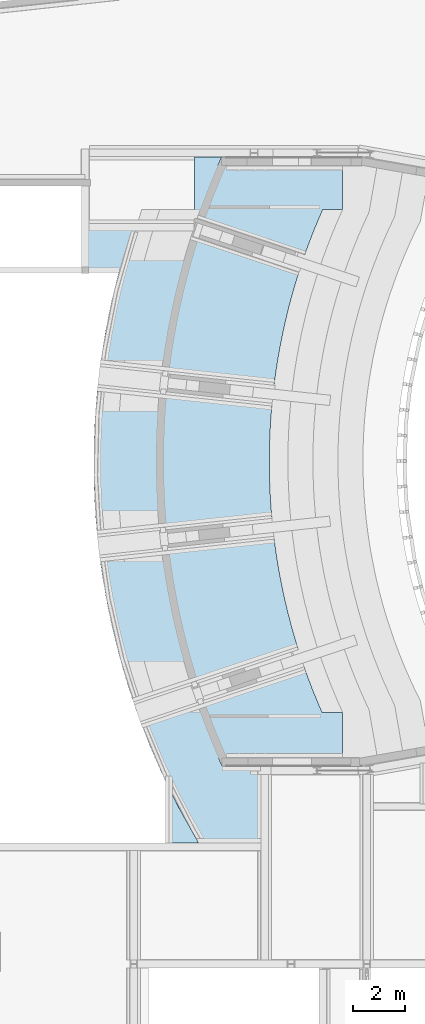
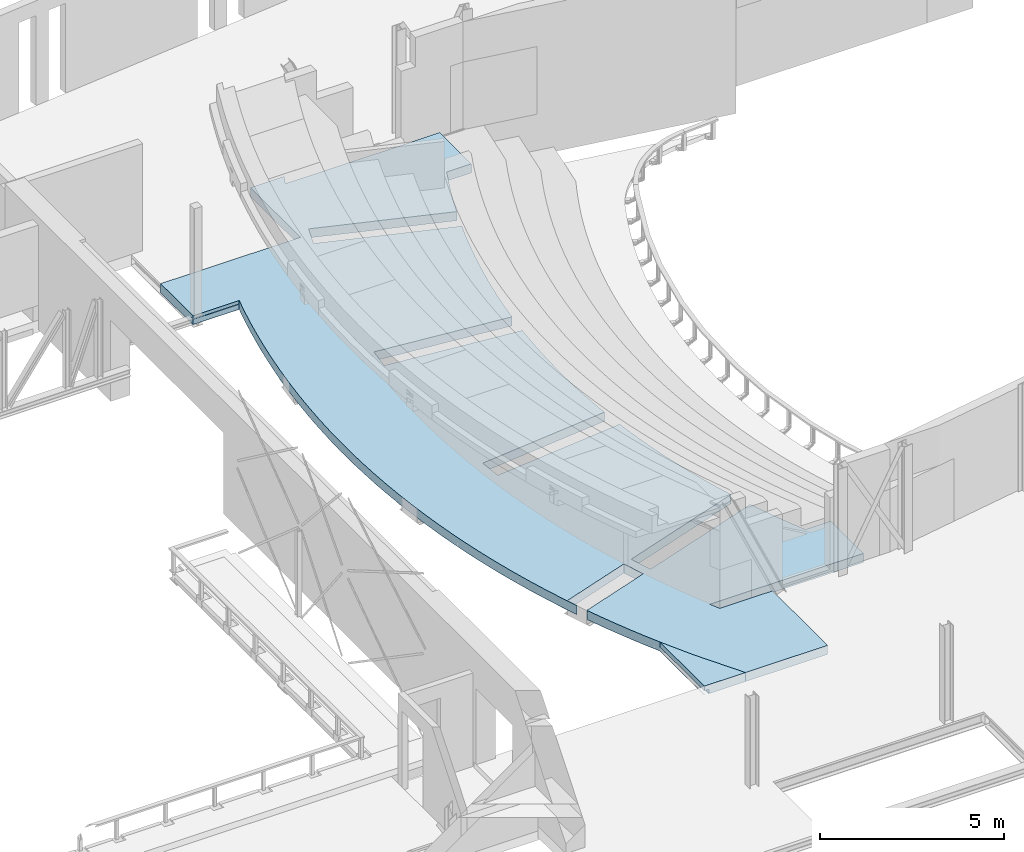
# One storey, part 61 of 68: 2 slabs.
"""IFC2X3 building model written with IfcOpenShell, lengths in millimetres."""

from ifc_helpers import new_model, entity, si_unit, converted_unit, derived_unit, direction, frame, origin, place, context, subcontext, project, spatial, faceted_brep, material, material_list, type_object, element, save


model = new_model("IFC2X3")

# Units and contexts
model_context = context("Model", 3, precision=0.01, world=origin(), true_north=direction((6.12303176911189e-17, 1.0)))
body_context = subcontext(model_context, "Body", "Model", "MODEL_VIEW")
ifc_project = project(units=[si_unit("LENGTHUNIT", "METRE", prefix="MILLI"), si_unit("AREAUNIT", "SQUARE_METRE", prefix="MILLI"), si_unit("VOLUMEUNIT", "CUBIC_METRE"), converted_unit("PLANEANGLEUNIT", "DEGREE", entity("IfcRatioMeasure", 0.0174532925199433), si_unit("PLANEANGLEUNIT", "RADIAN"), dimensions=[0, 0, 0, 0, 0, 0, 0]), si_unit("MASSUNIT", "GRAM", prefix="KILO"), derived_unit("MASSDENSITYUNIT", [(si_unit("MASSUNIT", "GRAM", prefix="KILO"), 1), (si_unit("LENGTHUNIT", "METRE"), -3)]), derived_unit("MOMENTOFINERTIAUNIT", [(si_unit("LENGTHUNIT", "METRE"), 4)]), si_unit("TIMEUNIT", "SECOND"), si_unit("FREQUENCYUNIT", "HERTZ"), si_unit("THERMODYNAMICTEMPERATUREUNIT", "DEGREE_CELSIUS"), derived_unit("THERMALTRANSMITTANCEUNIT", [(si_unit("MASSUNIT", "GRAM", prefix="KILO"), 1), (si_unit("THERMODYNAMICTEMPERATUREUNIT", "KELVIN"), -1), (si_unit("TIMEUNIT", "SECOND"), -3)]), derived_unit("VOLUMETRICFLOWRATEUNIT", [(si_unit("LENGTHUNIT", "METRE"), 3), (si_unit("TIMEUNIT", "SECOND"), -1)]), si_unit("ELECTRICCURRENTUNIT", "AMPERE"), si_unit("ELECTRICVOLTAGEUNIT", "VOLT"), si_unit("POWERUNIT", "WATT"), si_unit("FORCEUNIT", "NEWTON", prefix="KILO"), si_unit("ILLUMINANCEUNIT", "LUX"), si_unit("LUMINOUSFLUXUNIT", "LUMEN"), si_unit("LUMINOUSINTENSITYUNIT", "CANDELA"), derived_unit("USERDEFINED", [(si_unit("MASSUNIT", "GRAM", prefix="KILO"), -1), (si_unit("LENGTHUNIT", "METRE"), -2), (si_unit("TIMEUNIT", "SECOND"), 3), (si_unit("LUMINOUSFLUXUNIT", "LUMEN"), 1)]), derived_unit("LINEARVELOCITYUNIT", [(si_unit("LENGTHUNIT", "METRE"), 1), (si_unit("TIMEUNIT", "SECOND"), -1)]), si_unit("PRESSUREUNIT", "PASCAL"), derived_unit("USERDEFINED", [(si_unit("LENGTHUNIT", "METRE"), -2), (si_unit("MASSUNIT", "GRAM", prefix="KILO"), 1), (si_unit("TIMEUNIT", "SECOND"), -2)]), derived_unit("LINEARFORCEUNIT", [(si_unit("MASSUNIT", "GRAM", prefix="KILO"), 1), (si_unit("LENGTHUNIT", "METRE"), 1), (si_unit("TIMEUNIT", "SECOND"), -2), (si_unit("LENGTHUNIT", "METRE"), -1)]), derived_unit("PLANARFORCEUNIT", [(si_unit("MASSUNIT", "GRAM", prefix="KILO"), 1), (si_unit("LENGTHUNIT", "METRE"), 1), (si_unit("TIMEUNIT", "SECOND"), -2), (si_unit("LENGTHUNIT", "METRE"), -2)])], contexts=[model_context])

# Site, building, storey
site_placement = place(None, origin())
site = spatial("IfcSite", under=ifc_project, at=site_placement, Name="Theater aan de Parade", CompositionType="ELEMENT")
building_placement = place(site_placement, origin())
building = spatial("IfcBuilding", under=site, at=building_placement, Name="Theater aan de Parade", CompositionType="ELEMENT")
storey_placement = place(building_placement, frame((0.0, 0.0, 8750.0)))
storey = spatial("IfcBuildingStorey", under=building, at=storey_placement, Name="02 tweede verdieping", CompositionType="ELEMENT", Elevation=8750.0)

# Slabs
ifc_material_1 = material(Name="00_PBT_MAT_beton t.p.g._C30/37")
ifc_material_2 = material(Name="00_PBT_MAT_staal")
ifc_material_list = material_list([ifc_material_1, ifc_material_2])
slab_type_1 = type_object("IfcSlabType", Name="Floor:28_PBT_FL_staalplaatbeton_d=300_C30/37", PredefinedType="FLOOR")
slab_1_placement = place(storey_placement, origin())
element("IfcSlab", 1, at=slab_1_placement, inside=storey, type_object=slab_type_1, material=ifc_material_list, Name="Floor:28_PBT_FL_staalplaatbeton_d=300_C30/37", ObjectType="Floor:28_PBT_FL_staalplaatbeton_d=300_C30/37", PredefinedType="FLOOR", context=body_context, shape_type="Brep", body=[
    faceted_brep([(42267.6357533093, 24961.8989532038, -80.0), (42267.6357533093, 24961.8989532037, -380.0), (42428.0964396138, 24385.5568164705, -380.0), (42428.0964396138, 24385.5568164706, -80.0), (42119.2250568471, 25541.4609963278, -80.0), (42119.2250568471, 25541.4609963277, -380.0), (42784.8835946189, 23243.5327879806, -380.0), (42981.05498425, 22678.3472798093, -380.0), (42981.0549842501, 22678.347279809, -80.0), (42784.8835946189, 23243.5327879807, -80.0), (42600.5373707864, 23812.6850946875, -380.0), (42600.5373707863, 23812.6850946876, -80.0), (41982.9288576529, 26123.9910377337, -380.0), (41982.9288576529, 26123.9910377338, -80.0), (41485.0531119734, 29072.2603080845, -380.0), (41559.9943618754, 28478.7101866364, -380.0), (41559.9943618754, 28478.7101866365, -80.0), (41485.0531119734, 29072.2603080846, -80.0), (41422.5020060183, 29667.2437567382, -380.0), (41422.5020060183, 29667.2437567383, -80.0), (41372.3682324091, 30263.4019214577, -380.0), (41372.3682324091, 30263.4019214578, -80.0), (41746.9116270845, 27296.9411427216, -380.0), (41858.806397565, 26709.2358792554, -380.0), (41858.806397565, 26709.2358792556, -80.0), (41746.9116270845, 27296.9411427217, -80.0), (41647.2931819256, 27886.8513805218, -80.0), (41647.2931819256, 27886.8513805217, -380.0), (41334.6735823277, 30860.4756804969, -380.0), (41334.6735823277, 30860.475680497, -80.0), (41309.4344402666, 31458.2055141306, -80.0), (41309.4344402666, 31458.2055141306, -380.0), (41308.5326737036, 33252.7326652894, -80.0), (41333.1710750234, 33850.4875907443, -80.0), (41333.1710750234, 33850.4875907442, -380.0), (41308.5326737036, 33252.7326652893, -380.0), (41370.2656396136, 34447.5989738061, -80.0), (41370.2656396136, 34447.5989738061, -380.0), (41419.8002446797, 35043.8072783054, -80.0), (41419.8002446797, 35043.8072783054, -380.0), (41296.661776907, 32056.331617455, -80.0), (41296.661776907, 32056.3316174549, -380.0), (41296.3611443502, 32654.594013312, -80.0), (41296.3611443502, 32654.594013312, -380.0), (41481.7533603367, 35638.8533605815, -380.0), (41481.7533603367, 35638.8533605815, -80.0), (41976.6659310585, 38587.6220581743, -80.0), (41976.6659310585, 38587.6220581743, -380.0), (41853.1316726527, 38002.2526331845, -380.0), (41853.1316726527, 38002.2526331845, -80.0), (42112.3766587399, 39170.2889270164, -80.0), (42112.3766587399, 39170.2889270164, -380.0), (42260.2048722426, 39750.0, -190.0), (42260.2048722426, 39750.0, -200.0), (42260.2048722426, 39750.0, -370.0), (42260.2048722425, 39750.0, -380.0), (42260.2048722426, 39750.0, -80.0), (41642.8020269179, 36824.4249219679, -380.0), (41556.0980589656, 36232.4785821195, -380.0), (41556.0980589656, 36232.4785821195, -80.0), (41642.8020269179, 36824.4249219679, -80.0), (41741.82757856, 37414.4350888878, -80.0), (41741.82757856, 37414.4350888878, -380.0), (45399.9485248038, 23698.5992345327, -380.0), (45352.3526698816, 23840.8477304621, -380.0), (45352.3526698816, 23840.8477304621, -80.0), (45399.9485248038, 23698.5992345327, -80.0), (45574.4666595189, 23177.0214161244, -380.0), (45526.8708045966, 23319.269912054, -380.0), (45526.8708045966, 23319.269912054, -80.0), (45574.4666595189, 23177.0214161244, -80.0), (40813.8581275, 39750.0, -190.0), (40813.8581275, 39750.0, -80.0), (40813.8581275, 39750.0, -370.0), (40813.8581275, 39750.0, -200.0), (40813.8581275, 39858.5220723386, -364.727922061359), (40813.8581275, 39855.6615371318, -361.0), (40813.8581275, 39853.8633295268, -356.658742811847), (40813.8581275, 39853.2499944, -352.0), (40813.8581275, 39853.2499944, -218.0), (40813.8581275, 39853.8633295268, -213.341257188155), (40813.8581275, 39855.6615371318, -209.0), (40813.8581275, 39858.5220723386, -205.27207793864), (40813.8581275, 39862.2499944, -202.411542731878), (40813.8581275, 39866.5912515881, -200.613335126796), (40813.8581275, 39871.2499944, -200.0), (40813.8581275, 39950.0, -200.0), (40813.8581275, 39950.0, -190.0), (40813.8581275, 41510.0, -80.0), (40813.8581275, 41510.0, -160.0), (40813.8581275, 41510.0, -380.0), (40813.8581275, 39950.0, -380.0), (40813.8581275, 39950.0, -370.0), (40813.8581275, 39871.2499944, -370.0), (40813.8581275, 39866.5912515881, -369.386664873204), (40813.8581275, 39862.2499944, -367.588457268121), (40813.8581275, 39837.7499944, -367.588457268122), (40813.8581275, 39833.4087372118, -369.386664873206), (40813.8581275, 39828.7499944, -370.0), (40813.8581275, 39828.7499944, -200.0), (40813.8581275, 39833.4087372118, -200.613335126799), (40813.8581275, 39837.7499944, -202.411542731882), (40813.8581275, 39841.4779164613, -205.272077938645), (40813.8581275, 39844.3384516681, -209.0), (40813.8581275, 39846.1366592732, -213.341257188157), (40813.8581275, 39846.7499944, -218.0), (40813.8581275, 39846.7499944, -352.0), (40813.8581275, 39846.1366592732, -356.658742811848), (40813.8581275, 39844.3384516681, -361.0), (40813.8581275, 39841.4779164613, -364.72792206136), (41113.8581275, 41510.0, -380.0), (41113.8581275, 41504.4999944, -380.0), (45185.0, 41504.4999944, -380.0), (45185.0, 41510.0, -380.0), (45194.5631615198, 41510.0, -380.0), (45194.5631615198, 44210.0, -380.0), (45194.5631615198, 44225.0, -380.0), (46251.3115478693, 44225.0, -380.0), (46247.9175528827, 44217.5004467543, -380.0), (46244.5256883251, 44209.9998426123, -380.0), (46177.32488229, 44060.1920183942, -380.0), (46110.9866342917, 43910.0, -380.0), (50944.0177331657, 43910.0, -380.0), (50944.0177331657, 42200.0, -380.0), (50172.7408250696, 42200.0, -380.0), (49985.2403862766, 41765.6548449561, -380.0), (49806.2918839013, 41327.7169934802, -380.0), (49635.9641135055, 40886.3548078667, -380.0), (49474.3225564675, 40441.7379668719, -380.0), (45581.182225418, 41744.3692613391, -380.0), (45359.0682357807, 41080.5429470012, -380.0), (49251.2129681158, 39778.2447764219, -380.0), (49103.4704492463, 39299.7921470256, -380.0), (48965.6887554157, 38818.3765518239, -380.0), (48837.9272299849, 38334.2053392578, -380.0), (48720.2409005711, 37847.4870446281, -380.0), (48612.6804553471, 37358.4313002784, -380.0), (48515.2922212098, 36867.2487453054, -380.0), (48428.1181438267, 36374.1509348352, -380.0), (48351.1957695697, 35879.3502489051, -380.0), (48284.558229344, 35383.0598009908, -380.0), (44210.9732879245, 35820.7844911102, -380.0), (44194.9473811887, 35671.6430471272, -380.0), (44152.2116298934, 35273.9325298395, -380.0), (44136.1857231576, 35124.7910858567, -380.0), (48208.6946519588, 34687.1820180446, -380.0), (48167.1416924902, 34192.4551050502, -380.0), (48135.7766196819, 33696.9779621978, -380.0), (48114.6127129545, 33200.9603658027, -380.0), (48103.6589327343, 32704.612320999, -380.0), (48102.9199166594, 32208.1439728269, -380.0), (48112.395977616, 31711.7655172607, -380.0), (48132.0831036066, 31215.6871122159, -380.0), (48161.972959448, 30720.1187885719, -380.0), (48202.0528903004, 30225.2703612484, -380.0), (44134.6612389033, 29788.2111674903, -380.0), (44150.6871456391, 29639.0697235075, -380.0), (44193.4228969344, 29241.3592062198, -380.0), (44209.4488036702, 29092.217762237, -380.0), (48275.8444292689, 29529.1699286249, -380.0), (48340.9010353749, 29033.4106536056, -380.0), (48416.216742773, 28539.105924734, -380.0), (48501.7592076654, 28046.4680176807, -380.0), (48597.4916944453, 27555.7084923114, -380.0), (48703.3730914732, 27067.0381018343, -380.0), (48819.3579287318, 26580.6667022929, -380.0), (48945.396397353, 26096.8031624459, -380.0), (49081.4343710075, 25615.6552740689, -380.0), (49227.4134291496, 25137.4296627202, -380.0), (45399.7283147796, 23698.52555302, -380.0), (45462.3588237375, 23508.5835916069, -380.0), (45526.3324854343, 23319.0897923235, -380.0), (49448.3648409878, 24473.2143538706, -380.0), (49609.7658641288, 24024.824794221, -380.0), (49779.9910590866, 23579.7103477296, -380.0), (49958.9740215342, 23138.0446521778, -380.0), (50146.6449307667, 22700.0, -380.0), (50944.0177331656, 22700.0, -380.0), (50944.0177331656, 20930.0, -380.0), (46137.3642218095, 20930.0, -380.0), (46204.1160894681, 20779.8066151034, -380.0), (46271.7314928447, 20630.0, -380.0), (47928.1615208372, 20630.0, -380.0), (47928.1615208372, 17650.244375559, -380.0), (45357.7967926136, 17650.244375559, -380.0), (45094.1176584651, 18100.7635284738, -380.0), (44838.6782106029, 18556.0027752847, -380.0), (44591.562088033, 19015.8129258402, -380.0), (44352.851178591, 19480.0415579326, -380.0), (44122.6244010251, 19948.5351296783, -380.0), (43900.9578504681, 20421.1387407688, -380.0), (43687.9248014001, 20897.6961315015, -380.0), (43483.5956811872, 21378.0497386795, -380.0), (43288.0380469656, 21862.0407473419, -380.0), (43101.3149724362, 22349.513412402, -380.0), (45288.9189156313, 23081.478128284, -380.0), (45066.804925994, 23745.3044426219, -380.0), (42869.9979894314, 23010.2604369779, -380.0), (42287.0116824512, 39750.0, -380.0), (42287.0116824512, 39950.0, -380.0), (50944.0177331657, 43910.0, -80.0), (46110.9866342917, 43910.0, -80.0), (46177.32488229, 44060.1920183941, -80.0), (46244.525688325, 44209.9998426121, -80.0), (46247.9175528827, 44217.5004467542, -80.0), (46251.3115478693, 44225.0, -80.0), (45194.5631615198, 44225.0, -80.0), (45194.5631615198, 41510.0, -80.0), (42869.9979894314, 23010.2604369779, -80.0), (45066.804925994, 23745.3044426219, -80.0), (45288.9189156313, 23081.478128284, -80.0), (43101.3149724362, 22349.513412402, -80.0), (43288.0380469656, 21862.0407473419, -80.0), (43483.5956811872, 21378.0497386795, -80.0), (43687.9248014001, 20897.6961315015, -80.0), (43900.9578504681, 20421.1387407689, -80.0), (44122.6244010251, 19948.5351296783, -80.0), (44352.851178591, 19480.0415579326, -80.0), (44591.562088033, 19015.8129258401, -80.0), (44838.6782106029, 18556.0027752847, -80.0), (45094.1176584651, 18100.7635284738, -80.0), (45357.7967926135, 17650.2443755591, -80.0), (47928.1615208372, 17650.244375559, -80.0), (47928.1615208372, 20630.0, -80.0), (46271.7314928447, 20630.0, -80.0), (46204.1160894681, 20779.8066151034, -80.0), (46137.3642218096, 20930.0, -80.0), (50944.0177331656, 20930.0, -80.0), (50944.0177331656, 22700.0, -80.0), (50146.6449307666, 22700.0, -80.0), (49958.9740215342, 23138.0446521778, -80.0), (49779.9910590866, 23579.7103477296, -80.0), (49609.7658641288, 24024.824794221, -80.0), (49448.3648409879, 24473.2143538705, -80.0), (46711.4730878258, 23557.4598359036, -80.0), (45526.3324854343, 23319.0897923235, -80.0), (45462.3588237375, 23508.5835916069, -80.0), (45399.7283147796, 23698.52555302, -80.0), (45352.7900797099, 23840.9940862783, -80.0), (46489.3590981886, 24221.2861502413, -80.0), (49227.4134291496, 25137.4296627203, -80.0), (49081.4343710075, 25615.6552740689, -80.0), (48945.396397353, 26096.8031624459, -80.0), (48819.3579287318, 26580.6667022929, -80.0), (48703.3730914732, 27067.0381018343, -80.0), (48597.4916944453, 27555.7084923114, -80.0), (48501.7592076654, 28046.4680176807, -80.0), (48416.216742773, 28539.105924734, -80.0), (48340.9010353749, 29033.4106536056, -80.0), (48275.844429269, 29529.1699286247, -80.0), (45407.9541995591, 29221.0024593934, -80.0), (44209.4488036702, 29092.217762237, -80.0), (44193.4228969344, 29241.3592062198, -80.0), (44150.6871456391, 29639.0697235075, -80.0), (44134.6612389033, 29788.2111674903, -80.0), (44134.8226922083, 29788.2285163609, -80.0), (45333.1666347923, 29916.9958646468, -80.0), (48202.0528903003, 30225.2703612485, -80.0), (48161.972959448, 30720.1187885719, -80.0), (48132.0831036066, 31215.6871122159, -80.0), (48112.395977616, 31711.7655172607, -80.0), (48102.9199166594, 32208.1439728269, -80.0), (48103.6589327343, 32704.612320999, -80.0), (48114.6127129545, 33200.9603658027, -80.0), (48135.7766196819, 33696.9779621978, -80.0), (48167.1416924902, 34192.4551050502, -80.0), (48208.6946519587, 34687.1820180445, -80.0), (45343.0634666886, 34995.1067429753, -80.0), (44136.1857231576, 35124.7910858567, -80.0), (44152.2116298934, 35273.9325298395, -80.0), (44194.9473811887, 35671.6430471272, -80.0), (44210.9732879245, 35820.7844911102, -80.0), (45417.8510314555, 35691.1001482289, -80.0), (48284.5582293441, 35383.059800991, -80.0), (48351.1957695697, 35879.3502489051, -80.0), (48428.1181438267, 36374.1509348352, -80.0), (48515.2922212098, 36867.2487453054, -80.0), (48612.6804553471, 37358.4313002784, -80.0), (48720.2409005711, 37847.4870446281, -80.0), (48837.9272299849, 38334.2053392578, -80.0), (48965.6887554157, 38818.3765518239, -80.0), (49103.4704492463, 39299.7921470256, -80.0), (49251.2129681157, 39778.2447764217, -80.0), (45359.0682357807, 41080.5429470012, -80.0), (45581.182225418, 41744.3692613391, -80.0), (49474.3225564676, 40441.7379668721, -80.0), (49635.9641135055, 40886.3548078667, -80.0), (49806.2918839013, 41327.7169934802, -80.0), (49985.2403862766, 41765.6548449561, -80.0), (50172.7408250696, 42200.0, -80.0), (50944.0177331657, 42200.0, -80.0), (45194.5631615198, 44225.0, -140.0), (45194.5631615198, 41510.0, -140.0), (45185.0, 41510.0, -165.0), (41113.8581275, 41510.0, -165.0), (45185.0, 41504.4999944, -211.0), (41113.8581275, 41504.4999944, -211.0), (45185.0, 41503.5799917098, -204.011885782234), (41113.8581275, 41503.5799917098, -204.011885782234), (41113.8581275, 41500.8826803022, -197.500000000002), (45185.0, 41500.8826803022, -197.500000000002), (41113.8581275, 41496.591877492, -191.908116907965), (45185.0, 41496.591877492, -191.908116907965), (45185.0, 41491.0, -187.617314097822), (41113.8581275, 41491.0, -187.617314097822), (41113.8581275, 41484.4881086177, -184.920002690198), (45185.0, 41484.4881086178, -184.920002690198), (41113.8581275, 41477.4999944, -184.0), (45185.0, 41477.4999944, -184.0), (45185.0, 41360.0, -184.0), (41113.8581275, 41360.0, -184.0), (41113.8581275, 41360.0, -165.0), (45185.0, 41360.0, -165.0), (42287.0116824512, 39862.2499944, -202.411542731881), (42287.0116824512, 39866.5912515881, -200.613335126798), (42287.0116824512, 39871.2499944, -200.0), (42287.0116824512, 39858.5220723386, -205.272077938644), (42287.0116824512, 39853.2499944, -218.0), (42287.0116824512, 39853.8633295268, -213.341257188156), (42287.0116824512, 39855.6615371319, -209.0), (42287.0116824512, 39853.2499944, -352.0), (42287.0116824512, 39855.6615371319, -361.0), (42287.0116824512, 39853.8633295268, -356.658742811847), (42287.0116824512, 39858.5220723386, -364.727922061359), (42287.0116824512, 39871.2499944, -370.0), (42287.0116824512, 39866.5912515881, -369.386664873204), (42287.0116824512, 39862.2499944, -367.588457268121), (42287.0116824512, 39950.0, -370.0), (42287.0116824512, 39828.7499944, -370.0), (42287.0116824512, 39750.0, -370.0), (42287.0116824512, 39950.0, -200.0), (42287.0116824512, 39950.0, -190.0), (42287.0116824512, 39750.0, -200.0), (42287.0116824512, 39750.0, -190.0), (42287.0116824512, 39837.7499944, -367.588457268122), (42287.0116824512, 39833.4087372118, -369.386664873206), (42287.0116824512, 39841.4779164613, -364.72792206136), (42287.0116824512, 39846.7499944, -352.0), (42287.0116824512, 39846.1366592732, -356.658742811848), (42287.0116824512, 39844.3384516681, -361.0), (42287.0116824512, 39846.7499944, -218.0), (42287.0116824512, 39844.3384516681, -209.0), (42287.0116824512, 39846.1366592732, -213.341257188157), (42287.0116824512, 39841.4779164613, -205.272077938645), (42287.0116824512, 39828.7499944, -200.0), (42287.0116824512, 39833.4087372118, -200.613335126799), (42287.0116824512, 39837.7499944, -202.411542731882)], [[[0, 1, 2, 3]], [[4, 5, 1, 0]], [[6, 7, 8, 9]], [[10, 6, 9, 11]], [[3, 2, 10, 11]], [[12, 5, 4, 13]], [[14, 15, 16, 17]], [[18, 14, 17, 19]], [[20, 18, 19, 21]], [[22, 23, 24, 25]], [[25, 26, 27, 22]], [[15, 27, 26, 16]], [[13, 24, 23, 12]], [[28, 20, 21, 29]], [[29, 30, 31, 28]], [[32, 33, 34, 35]], [[33, 36, 37, 34]], [[36, 38, 39, 37]], [[40, 41, 31, 30]], [[42, 43, 41, 40]], [[42, 32, 35, 43]], [[44, 39, 38, 45]], [[46, 47, 48, 49]], [[50, 51, 47, 46]], [[52, 53, 54, 55, 51, 50, 56]], [[57, 58, 59, 60]], [[60, 61, 62, 57]], [[49, 48, 62, 61]], [[45, 59, 58, 44]], [[63, 64, 65, 66]], [[67, 68, 69, 70]], [[71, 52, 56, 72]], [[73, 54, 53, 74]], [[75, 76, 77, 78, 79, 80, 81, 82, 83, 84, 85, 86, 87, 71, 72, 88, 89, 90, 91, 92, 93, 94, 95]], [[96, 97, 98, 73, 74, 99, 100, 101, 102, 103, 104, 105, 106, 107, 108, 109]], [[91, 90, 110, 111, 112, 113, 114, 115, 116, 117, 118, 119, 120, 121, 122, 123, 124, 125, 126, 127, 128, 129, 130, 131, 132, 133, 134, 135, 136, 137, 138, 139, 140, 141, 142, 143, 144, 145, 146, 147, 148, 149, 150, 151, 152, 153, 154, 155, 156, 157, 158, 159, 160, 161, 162, 163, 164, 165, 166, 167, 168, 64, 63, 169, 170, 171, 68, 67, 172, 173, 174, 175, 176, 177, 178, 179, 180, 181, 182, 183, 184, 185, 186, 187, 188, 189, 190, 191, 192, 193, 194, 195, 196, 197, 7, 6, 10, 2, 1, 5, 12, 23, 22, 27, 15, 14, 18, 20, 28, 31, 41, 43, 35, 34, 37, 39, 44, 58, 57, 62, 48, 47, 51, 55, 198, 199]], [[200, 201, 202, 203, 204, 205, 206, 207, 88, 72, 56, 50, 46, 49, 61, 60, 59, 45, 38, 36, 33, 32, 42, 40, 30, 29, 21, 19, 17, 16, 26, 25, 24, 13, 4, 0, 3, 11, 9, 8, 208, 209, 210, 211, 212, 213, 214, 215, 216, 217, 218, 219, 220, 221, 222, 223, 224, 225, 226, 227, 228, 229, 230, 231, 232, 233, 234, 70, 69, 235, 236, 237, 66, 65, 238, 239, 240, 241, 242, 243, 244, 245, 246, 247, 248, 249, 250, 251, 252, 253, 254, 255, 256, 257, 258, 259, 260, 261, 262, 263, 264, 265, 266, 267, 268, 269, 270, 271, 272, 273, 274, 275, 276, 277, 278, 279, 280, 281, 282, 283, 284, 285, 286, 287, 288, 289, 290]], [[182, 181, 224, 223]], [[185, 184, 221, 220]], [[187, 186, 219, 218]], [[220, 219, 186, 185]], [[188, 187, 218, 217]], [[217, 216, 189, 188]], [[191, 190, 215, 214]], [[193, 192, 213, 212]], [[214, 213, 192, 191]], [[194, 193, 212, 211]], [[215, 190, 189, 216]], [[205, 204, 118, 117]], [[119, 118, 204, 203]], [[202, 201, 121, 120]], [[203, 202, 120, 119]], [[122, 121, 201, 200]], [[123, 122, 200, 290]], [[178, 177, 228, 227]], [[124, 123, 290, 289]], [[288, 287, 126, 125]], [[124, 289, 288, 125]], [[286, 285, 128, 127]], [[287, 286, 127, 126]], [[129, 128, 285, 284]], [[131, 130, 283, 282]], [[132, 131, 282, 281]], [[134, 133, 280, 279]], [[281, 280, 133, 132]], [[135, 134, 279, 278]], [[278, 277, 136, 135]], [[137, 136, 277, 276]], [[139, 138, 275, 274]], [[276, 275, 138, 137]], [[140, 139, 274, 273]], [[141, 140, 273, 272, 271]], [[145, 144, 268, 267, 266]], [[146, 145, 266, 265]], [[148, 147, 264, 263]], [[265, 264, 147, 146]], [[149, 148, 263, 262]], [[262, 261, 150, 149]], [[151, 150, 261, 260]], [[153, 152, 259, 258]], [[260, 259, 152, 151]], [[154, 153, 258, 257]], [[155, 154, 257, 256, 255, 254]], [[159, 158, 251, 250, 249]], [[160, 159, 249, 248]], [[162, 161, 247, 246]], [[248, 247, 161, 160]], [[163, 162, 246, 245]], [[245, 244, 164, 163]], [[165, 164, 244, 243]], [[167, 166, 242, 241]], [[243, 242, 166, 165]], [[168, 167, 241, 240]], [[64, 168, 240, 239, 238, 65]], [[197, 196, 209, 208]], [[172, 67, 70, 234, 233]], [[211, 210, 195, 194]], [[232, 231, 174, 173]], [[172, 233, 232, 173]], [[230, 229, 176, 175]], [[231, 230, 175, 174]], [[177, 176, 229, 228]], [[179, 178, 227, 226]], [[226, 225, 180, 179]], [[224, 181, 180, 225]], [[130, 129, 284, 283]], [[142, 141, 271, 270, 269, 268, 144, 143]], [[156, 155, 254, 253, 252, 251, 158, 157]], [[117, 116, 291, 206, 205]], [[183, 182, 223, 222]], [[184, 183, 222, 221]], [[110, 90, 89, 88, 207, 292, 114, 113, 293, 294]], [[115, 114, 292, 207, 206, 291, 116]], [[68, 171, 235, 69]], [[237, 169, 63, 66]], [[170, 236, 235, 171]], [[169, 237, 236, 170]], [[196, 195, 210, 209]], [[8, 7, 197, 208]], [[295, 112, 111, 296]], [[297, 298, 299, 300]], [[300, 299, 301, 302]], [[296, 298, 297, 295]], [[303, 304, 305, 306]], [[306, 305, 307, 308]], [[302, 301, 304, 303]], [[309, 308, 307, 310]], [[309, 310, 311, 312]], [[293, 312, 311, 294]], [[110, 294, 311, 310, 307, 305, 304, 301, 299, 298, 296, 111]], [[112, 295, 297, 300, 302, 303, 306, 308, 309, 312, 293, 113]], [[84, 83, 313, 314]], [[85, 84, 314, 315]], [[313, 83, 82, 316]], [[80, 79, 317, 318]], [[81, 80, 318, 319]], [[316, 82, 81, 319]], [[320, 317, 79, 78]], [[77, 76, 321, 322]], [[78, 77, 322, 320]], [[321, 76, 75, 323]], [[94, 93, 324, 325]], [[95, 94, 325, 326]], [[323, 75, 95, 326]], [[327, 324, 93, 92]], [[54, 73, 98, 328, 329]], [[327, 92, 91, 199]], [[330, 331, 87, 86]], [[329, 198, 55, 54]], [[332, 53, 52, 333]], [[97, 96, 334, 335]], [[98, 97, 335, 328]], [[334, 96, 109, 336]], [[107, 106, 337, 338]], [[108, 107, 338, 339]], [[336, 109, 108, 339]], [[340, 337, 106, 105]], [[104, 103, 341, 342]], [[105, 104, 342, 340]], [[341, 103, 102, 343]], [[100, 99, 344, 345]], [[101, 100, 345, 346]], [[343, 102, 101, 346]], [[53, 332, 344, 99, 74]], [[315, 330, 86, 85]], [[52, 71, 87, 331, 333]], [[324, 327, 199, 198, 329, 328, 335, 334, 336, 339, 338, 337, 340, 342, 341, 343, 346, 345, 344, 332, 333, 331, 330, 315, 314, 313, 316, 319, 318, 317, 320, 322, 321, 323, 326, 325]]]),
])
slab_type_2 = type_object("IfcSlabType", Name="Floor:28_PBT_FL_beton t.p.g._d=300_rand staalplaat-betonvloer_C30/37", PredefinedType="FLOOR")
slab_2_placement = place(storey_placement, origin())
element("IfcSlab", 2, at=slab_2_placement, inside=storey, type_object=slab_type_2, material=ifc_material_1, Name="Floor:28_PBT_FL_beton t.p.g._d=300_rand staalplaat-betonvloer_C30/37", ObjectType="Floor:28_PBT_FL_beton t.p.g._d=300_rand staalplaat-betonvloer_C30/37", PredefinedType="FLOOR", context=body_context, shape_type="Brep", body=[
    faceted_brep([(44068.8581300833, 17650.244375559, -380.0), (44068.4604191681, 17650.244375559, -380.0), (44068.4604191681, 20061.9712002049, -380.0), (44075.9561774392, 20046.1963281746, -380.0), (44078.4959172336, 20040.8598097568, -380.0), (44083.4604191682, 20030.4283647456, -380.0), (44083.4604191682, 17650.244375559, -380.0), (44068.4604191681, 17650.244375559, -365.0), (44068.4604191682, 20061.971200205, -365.0), (44070.4746980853, 20057.7323861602, -368.324119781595), (44072.4889770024, 20053.4935721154, -371.648239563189), (44074.5032559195, 20049.2547580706, -374.972359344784), (44076.5175348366, 20045.0159440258, -378.296479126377), (44078.6126243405, 20040.6139861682, -378.81053474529), (44079.9889770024, 20037.7221543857, -379.148239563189), (44080.8087687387, 17650.244375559, -378.901650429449), (44078.1571183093, 17650.244375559, -377.803300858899), (44075.5054678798, 17650.244375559, -376.704951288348), (44072.8538174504, 17650.244375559, -375.606601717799), (44071.7554678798, 17650.244375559, -372.954951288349), (44070.6571183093, 17650.244375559, -370.303300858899), (44069.5587687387, 17650.244375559, -367.651650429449)], [[[0, 1, 2, 3, 4, 5, 6]], [[2, 1, 7, 8]], [[2, 8, 9, 10, 11, 12]], [[12, 13, 14, 5, 4, 3]], [[2, 12, 3]], [[1, 0, 6, 15, 16, 17, 18, 19, 20, 21, 7]], [[14, 16, 15]], [[17, 11, 18]], [[15, 6, 5]], [[7, 21, 8]], [[21, 9, 8]], [[14, 15, 5]], [[16, 14, 13, 12]], [[11, 17, 12]], [[10, 9, 20]], [[17, 16, 12]], [[21, 20, 9]], [[10, 19, 11]], [[18, 11, 19]], [[10, 20, 19]]]),
    faceted_brep([(45357.7967926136, 17650.244375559, -380.0), (45357.7967926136, 17650.244375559, -80.0), (44068.4604191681, 17650.244375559, -80.0), (44068.4604191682, 17650.244375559, -245.0), (44069.5587687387, 17650.244375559, -242.348349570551), (44070.6571183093, 17650.244375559, -239.696699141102), (44071.7554678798, 17650.244375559, -237.045048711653), (44072.8538174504, 17650.244375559, -234.393398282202), (44075.5054678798, 17650.244375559, -233.295048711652), (44078.1571183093, 17650.244375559, -232.196699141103), (44080.8087687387, 17650.244375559, -231.098349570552), (44083.4604191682, 17650.244375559, -230.0), (44203.4604191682, 17650.244375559, -230.0), (44206.1120695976, 17650.244375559, -231.098349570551), (44208.7637200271, 17650.244375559, -232.196699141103), (44211.4153704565, 17650.244375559, -233.295048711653), (44214.067020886, 17650.244375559, -234.393398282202), (44215.1653704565, 17650.244375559, -237.045048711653), (44216.2637200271, 17650.244375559, -239.696699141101), (44217.3620695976, 17650.244375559, -242.348349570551), (44218.4604191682, 17650.244375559, -245.0), (44218.4604191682, 17650.244375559, -365.0), (44217.4692665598, 17650.244375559, -367.392854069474), (44216.4781139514, 17650.244375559, -369.785708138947), (44215.2725674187, 17650.244375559, -372.696154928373), (44214.067020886, 17650.244375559, -375.606601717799), (44211.4153704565, 17650.244375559, -376.704951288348), (44208.7637200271, 17650.244375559, -377.803300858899), (44206.1120695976, 17650.244375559, -378.90165042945), (44203.4604191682, 17650.244375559, -380.0), (44373.981457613, 19453.6140871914, -380.0), (44218.4604191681, 19750.8925054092, -245.0), (44544.502496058, 19125.654166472, -380.0), (44218.4604191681, 19750.8925054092, -365.0), (44288.7209383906, 19617.5940475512, -380.0), (44246.0906787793, 19699.584027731, -380.0), (44068.4604191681, 20061.971200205, -232.821499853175), (44068.4604191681, 20061.971200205, -228.761999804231), (44074.816235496, 20048.5937472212, -232.741203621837), (44073.227281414, 20051.9381104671, -235.805902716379), (44072.5781290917, 20053.3044187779, -237.057956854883), (44071.6383273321, 20055.2824737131, -238.870601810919), (44070.0493732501, 20058.6268369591, -241.93530090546), (44068.4604191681, 20061.971200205, -245.0), (44068.4604191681, 20061.971200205, -236.880999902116), (44068.4604191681, 20061.971200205, -180.047999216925), (44203.4604191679, 19781.5740079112, -230.0), (44143.1609302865, 19905.8567698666, -230.0), (44068.4604191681, 20061.971200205, -212.523999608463), (44068.4604191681, 20061.971200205, -80.0), (44083.4604191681, 20030.4283647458, -230.0), (44556.5519131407, 19082.6149523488, -80.0), (44224.7755489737, 19740.579017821, -380.0), (44203.4604191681, 19781.5740079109, -380.0), (44206.0425224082, 19776.2900079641, -378.969419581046), (44208.6246256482, 19771.0060080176, -377.938839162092), (44211.2067288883, 19765.722008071, -376.908258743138), (44213.7888321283, 19760.4380081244, -375.877678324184), (44079.0526886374, 20039.6910220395, -231.397759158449), (44214.9567288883, 19758.0516324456, -373.158258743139), (44216.1246256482, 19755.6652567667, -370.438839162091), (44217.2925224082, 19753.2788810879, -367.719419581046), (44874.4817580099, 18491.0112298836, -380.0), (44216.4520299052, 19754.9976545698, -241.678962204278), (44214.4436406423, 19759.1028037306, -238.357924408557), (44212.4352513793, 19763.2079528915, -235.036886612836), (44210.4268621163, 19767.3131020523, -231.715848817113), (44206.9436406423, 19774.4435549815, -230.857924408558)], [[[0, 1, 2, 3, 4, 5, 6, 7, 8, 9, 10, 11, 12, 13, 14, 15, 16, 17, 18, 19, 20, 21, 22, 23, 24, 25, 26, 27, 28, 29]], [[30, 31, 32]], [[33, 30, 34, 35]], [[36, 37, 38, 39, 40, 41, 42, 43, 44]], [[45, 46, 47]], [[45, 47, 48]], [[45, 49, 46]], [[50, 37, 48]], [[51, 46, 49]], [[52, 53, 54, 55, 56, 57, 35]], [[37, 50, 58, 38]], [[35, 57, 59, 60, 61, 33]], [[30, 33, 31]], [[62, 32, 51]], [[0, 62, 1]], [[51, 31, 63, 64, 65, 66]], [[47, 50, 48]], [[51, 32, 31]], [[51, 1, 62]], [[51, 66, 67, 46]], [[43, 3, 2, 49, 45, 48, 37, 36, 44]], [[0, 29, 53, 52, 35, 34, 30, 32, 62]], [[51, 49, 2, 1]], [[6, 39, 7]], [[6, 5, 41]], [[42, 5, 4]], [[38, 9, 8, 7]], [[10, 58, 50]], [[11, 10, 50]], [[38, 58, 9]], [[10, 9, 58]], [[4, 3, 43]], [[42, 41, 5]], [[42, 4, 43]], [[6, 41, 40, 39]], [[39, 38, 7]], [[11, 50, 47, 46, 12]], [[67, 14, 13]], [[15, 65, 16]], [[20, 19, 31]], [[13, 12, 46]], [[19, 63, 31]], [[67, 13, 46]], [[67, 66, 14]], [[65, 15, 66]], [[64, 63, 18]], [[15, 14, 66]], [[19, 18, 63]], [[64, 17, 65]], [[16, 65, 17]], [[64, 18, 17]], [[21, 20, 31, 33]], [[60, 24, 23]], [[56, 26, 57]], [[21, 33, 22]], [[57, 25, 59]], [[54, 28, 55]], [[27, 56, 55]], [[22, 61, 23]], [[54, 53, 29]], [[61, 22, 33]], [[24, 59, 25]], [[60, 23, 61]], [[28, 27, 55]], [[28, 54, 29]], [[25, 57, 26]], [[56, 27, 26]], [[24, 60, 59]]]),
])

save(model, "model.ifc")
